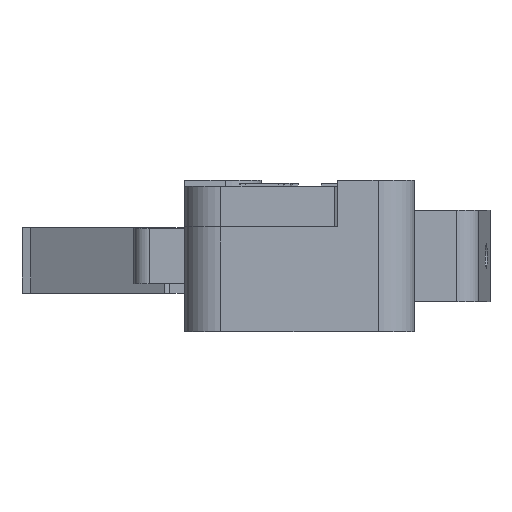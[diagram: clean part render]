
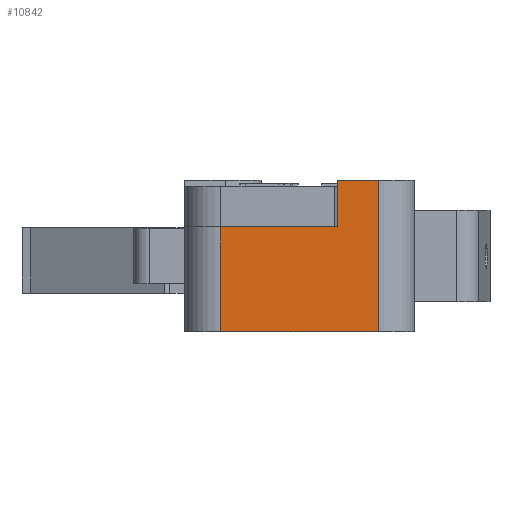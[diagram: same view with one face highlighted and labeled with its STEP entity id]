
A CAD part, left-side view. The second image highlights one B-rep face of the part: STEP entity #10842.
In plain terms, the highlighted planar face has unit normal (-1, 0, 0).
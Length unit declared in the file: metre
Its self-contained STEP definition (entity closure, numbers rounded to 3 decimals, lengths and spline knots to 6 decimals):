
#10502=CARTESIAN_POINT('',(-0.027238,-0.006323,0.022913));
#10503=VERTEX_POINT('',#10502);
#10506=CARTESIAN_POINT('',(-0.027238,-0.006323,0.030113));
#10507=DIRECTION('',(0.,0.,-1.));
#10508=VECTOR('',#10507,1.);
#10509=LINE('',#10506,#10508);
#10510=CARTESIAN_POINT('',(-0.027238,-0.006323,0.030113));
#10511=VERTEX_POINT('',#10510);
#10512=EDGE_CURVE('',#10511,#10503,#10509,.T.);
#10710=CARTESIAN_POINT('',(-0.027238,-0.017123,0.033313));
#10711=VERTEX_POINT('',#10710);
#10745=CARTESIAN_POINT('',(-0.027238,-0.014323,0.033313));
#10746=VERTEX_POINT('',#10745);
#10749=CARTESIAN_POINT('',(-0.027238,-0.014323,0.033313));
#10750=DIRECTION('',(0.,-1.,0.));
#10751=VECTOR('',#10750,1.);
#10752=LINE('',#10749,#10751);
#10753=EDGE_CURVE('',#10746,#10711,#10752,.T.);
#10782=CARTESIAN_POINT('',(-0.027238,-0.017123,0.022913));
#10783=VERTEX_POINT('',#10782);
#10795=CARTESIAN_POINT('',(-0.027238,-0.017123,0.033313));
#10796=DIRECTION('',(0.,0.,-1.));
#10797=VECTOR('',#10796,1.);
#10798=LINE('',#10795,#10797);
#10799=EDGE_CURVE('',#10711,#10783,#10798,.T.);
#10812=CARTESIAN_POINT('',(-0.027238,-0.014323,0.033313));
#10813=DIRECTION('',(1.,0.,0.));
#10814=DIRECTION('',(0.,1.,0.));
#10815=AXIS2_PLACEMENT_3D('',#10812,#10813,#10814);
#10816=PLANE('',#10815);
#10817=CARTESIAN_POINT('',(-0.027238,-0.014323,0.022913));
#10818=DIRECTION('',(0.,-1.,0.));
#10819=VECTOR('',#10818,1.);
#10820=LINE('',#10817,#10819);
#10821=EDGE_CURVE('',#10503,#10783,#10820,.T.);
#10822=ORIENTED_EDGE('',*,*,#10821,.T.);
#10823=ORIENTED_EDGE('',*,*,#10799,.F.);
#10824=ORIENTED_EDGE('',*,*,#10753,.F.);
#10825=CARTESIAN_POINT('',(-0.027238,-0.014323,0.033313));
#10826=DIRECTION('',(0.,0.,-1.));
#10827=VECTOR('',#10826,1.);
#10828=LINE('',#10825,#10827);
#10829=CARTESIAN_POINT('',(-0.027238,-0.014323,0.030113));
#10830=VERTEX_POINT('',#10829);
#10831=EDGE_CURVE('',#10746,#10830,#10828,.T.);
#10832=ORIENTED_EDGE('',*,*,#10831,.T.);
#10833=CARTESIAN_POINT('',(-0.027238,-0.011723,0.030113));
#10834=DIRECTION('',(0.,-1.,0.));
#10835=VECTOR('',#10834,1.);
#10836=LINE('',#10833,#10835);
#10837=EDGE_CURVE('',#10511,#10830,#10836,.T.);
#10838=ORIENTED_EDGE('',*,*,#10837,.F.);
#10839=ORIENTED_EDGE('',*,*,#10512,.T.);
#10840=EDGE_LOOP('',(#10822,#10823,#10824,#10832,#10838,#10839));
#10841=FACE_BOUND('',#10840,.T.);
#10842=ADVANCED_FACE('',(#10841),#10816,.F.);
